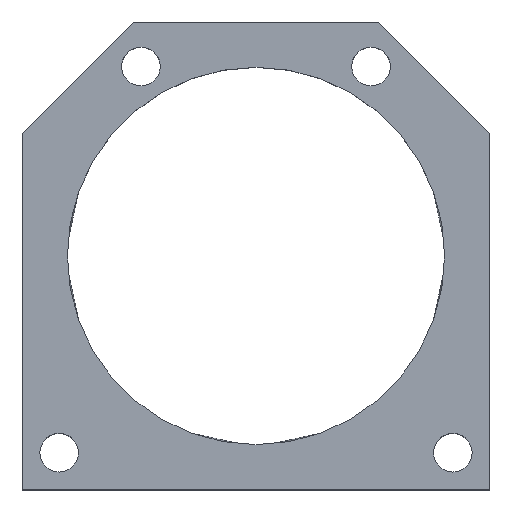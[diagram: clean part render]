
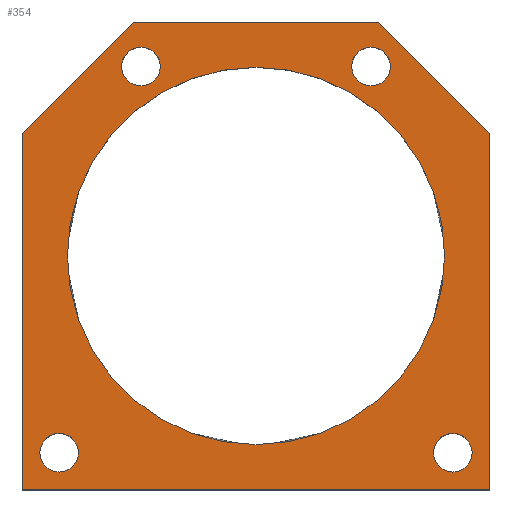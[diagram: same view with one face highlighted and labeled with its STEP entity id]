
A CAD part, top view. The second image highlights one B-rep face of the part: STEP entity #354.
In plain terms, the highlighted planar face has unit normal (0, 0, 1).
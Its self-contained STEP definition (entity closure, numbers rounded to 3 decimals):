
#29=FACE_BOUND('',#84,.T.);
#30=FACE_BOUND('',#85,.T.);
#31=FACE_BOUND('',#86,.T.);
#32=FACE_BOUND('',#87,.T.);
#33=FACE_BOUND('',#88,.T.);
#41=PLANE('',#398);
#57=FACE_OUTER_BOUND('',#83,.T.);
#83=EDGE_LOOP('',(#320,#321,#322,#323,#324,#325));
#84=EDGE_LOOP('',(#326));
#85=EDGE_LOOP('',(#327));
#86=EDGE_LOOP('',(#328));
#87=EDGE_LOOP('',(#329));
#88=EDGE_LOOP('',(#330));
#102=LINE('',#646,#129);
#108=LINE('',#657,#135);
#113=LINE('',#671,#140);
#116=LINE('',#676,#143);
#120=LINE('',#684,#147);
#121=LINE('',#686,#148);
#129=VECTOR('',#449,10.);
#135=VECTOR('',#457,10.);
#140=VECTOR('',#468,10.);
#143=VECTOR('',#473,10.);
#147=VECTOR('',#483,10.);
#148=VECTOR('',#486,10.);
#152=CIRCLE('',#377,2.6);
#154=CIRCLE('',#380,2.6);
#156=CIRCLE('',#383,2.6);
#158=CIRCLE('',#386,2.6);
#161=CIRCLE('',#395,25.4);
#171=VERTEX_POINT('',#620);
#173=VERTEX_POINT('',#626);
#175=VERTEX_POINT('',#632);
#177=VERTEX_POINT('',#638);
#179=VERTEX_POINT('',#644);
#180=VERTEX_POINT('',#645);
#184=VERTEX_POINT('',#655);
#189=VERTEX_POINT('',#669);
#190=VERTEX_POINT('',#670);
#191=VERTEX_POINT('',#675);
#192=VERTEX_POINT('',#679);
#205=EDGE_CURVE('',#171,#171,#152,.T.);
#208=EDGE_CURVE('',#173,#173,#154,.T.);
#211=EDGE_CURVE('',#175,#175,#156,.T.);
#214=EDGE_CURVE('',#177,#177,#158,.T.);
#217=EDGE_CURVE('',#179,#180,#102,.T.);
#223=EDGE_CURVE('',#179,#184,#108,.T.);
#229=EDGE_CURVE('',#189,#190,#113,.T.);
#232=EDGE_CURVE('',#191,#190,#116,.T.);
#234=EDGE_CURVE('',#192,#192,#161,.T.);
#237=EDGE_CURVE('',#189,#180,#120,.T.);
#238=EDGE_CURVE('',#184,#191,#121,.T.);
#320=ORIENTED_EDGE('',*,*,#217,.F.);
#321=ORIENTED_EDGE('',*,*,#223,.T.);
#322=ORIENTED_EDGE('',*,*,#238,.T.);
#323=ORIENTED_EDGE('',*,*,#232,.T.);
#324=ORIENTED_EDGE('',*,*,#229,.F.);
#325=ORIENTED_EDGE('',*,*,#237,.T.);
#326=ORIENTED_EDGE('',*,*,#205,.T.);
#327=ORIENTED_EDGE('',*,*,#208,.T.);
#328=ORIENTED_EDGE('',*,*,#211,.T.);
#329=ORIENTED_EDGE('',*,*,#214,.T.);
#330=ORIENTED_EDGE('',*,*,#234,.T.);
#354=ADVANCED_FACE('',(#57,#29,#30,#31,#32,#33),#41,.T.);
#377=AXIS2_PLACEMENT_3D('',#621,#421,#422);
#380=AXIS2_PLACEMENT_3D('',#627,#428,#429);
#383=AXIS2_PLACEMENT_3D('',#633,#435,#436);
#386=AXIS2_PLACEMENT_3D('',#639,#442,#443);
#395=AXIS2_PLACEMENT_3D('',#680,#477,#478);
#398=AXIS2_PLACEMENT_3D('',#687,#487,#488);
#421=DIRECTION('center_axis',(0.,0.,-1.));
#422=DIRECTION('ref_axis',(1.,0.,0.));
#428=DIRECTION('center_axis',(0.,0.,-1.));
#429=DIRECTION('ref_axis',(1.,0.,0.));
#435=DIRECTION('center_axis',(0.,0.,-1.));
#436=DIRECTION('ref_axis',(1.,0.,0.));
#442=DIRECTION('center_axis',(0.,0.,-1.));
#443=DIRECTION('ref_axis',(1.,0.,0.));
#449=DIRECTION('',(0.707,0.707,0.));
#457=DIRECTION('',(0.,-1.,0.));
#468=DIRECTION('',(0.707,-0.707,0.));
#473=DIRECTION('',(0.,1.,0.));
#477=DIRECTION('center_axis',(0.,0.,-1.));
#478=DIRECTION('ref_axis',(1.,0.,0.));
#483=DIRECTION('',(-1.,0.,0.));
#486=DIRECTION('',(1.,0.,0.));
#487=DIRECTION('center_axis',(0.,0.,1.));
#488=DIRECTION('ref_axis',(1.,0.,0.));
#620=CARTESIAN_POINT('',(44.4,57.,12.));
#621=CARTESIAN_POINT('Origin',(47.,57.,12.));
#626=CARTESIAN_POINT('',(55.4,5.,12.));
#627=CARTESIAN_POINT('Origin',(58.,5.,12.));
#632=CARTESIAN_POINT('',(13.4,57.,12.));
#633=CARTESIAN_POINT('Origin',(16.,57.,12.));
#638=CARTESIAN_POINT('',(2.4,5.,12.));
#639=CARTESIAN_POINT('Origin',(5.,5.,12.));
#644=CARTESIAN_POINT('',(0.,48.,12.));
#645=CARTESIAN_POINT('',(15.,63.,12.));
#646=CARTESIAN_POINT('',(7.5,55.5,12.));
#655=CARTESIAN_POINT('',(0.,0.,12.));
#657=CARTESIAN_POINT('',(0.,63.,12.));
#669=CARTESIAN_POINT('',(48.,63.,12.));
#670=CARTESIAN_POINT('',(63.,48.,12.));
#671=CARTESIAN_POINT('',(55.5,55.5,12.));
#675=CARTESIAN_POINT('',(63.,0.,12.));
#676=CARTESIAN_POINT('',(63.,0.,12.));
#679=CARTESIAN_POINT('',(6.1,31.5,12.));
#680=CARTESIAN_POINT('Origin',(31.5,31.5,12.));
#684=CARTESIAN_POINT('',(63.,63.,12.));
#686=CARTESIAN_POINT('',(0.,0.,12.));
#687=CARTESIAN_POINT('Origin',(31.5,31.5,12.));
